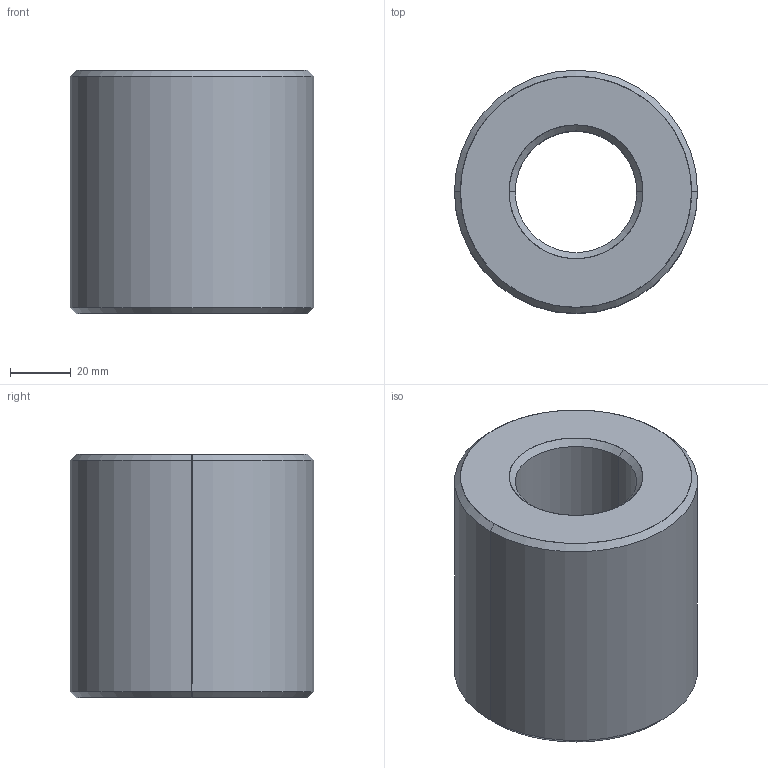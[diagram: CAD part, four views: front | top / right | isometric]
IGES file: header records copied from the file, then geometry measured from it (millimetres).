
Start section: SolidWorks IGES file using analytic representation for surfaces
Global section: file name: C:\Users\ianosborn\Desktop\L1330_v2\L1330_v2_20241024_IGES\L1330.R40-07.igs; native system: SolidWorks 2019; preprocessor: SolidWorks 2019; author: IanOsborn; date: 241024.102922; units: millimetre
Bounding box: 80 x 80 x 80 mm (x, y, z)
Surface area: 36815.8 mm2 (no closed solid volume)
Topology: 0 solids, 0 shells, 14 faces, 304 edges, 304 vertices
Faces by surface type: revolution 12, bspline 2
